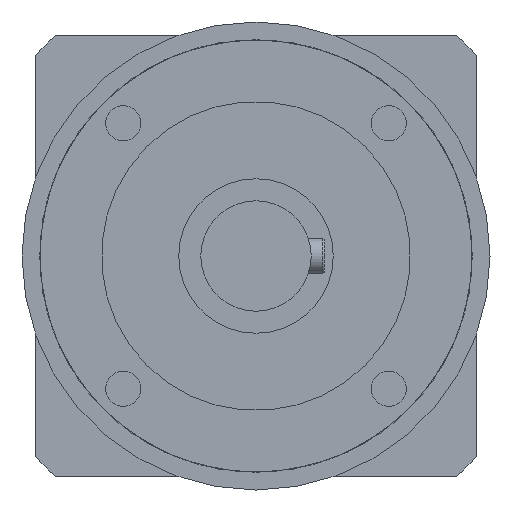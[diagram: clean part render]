
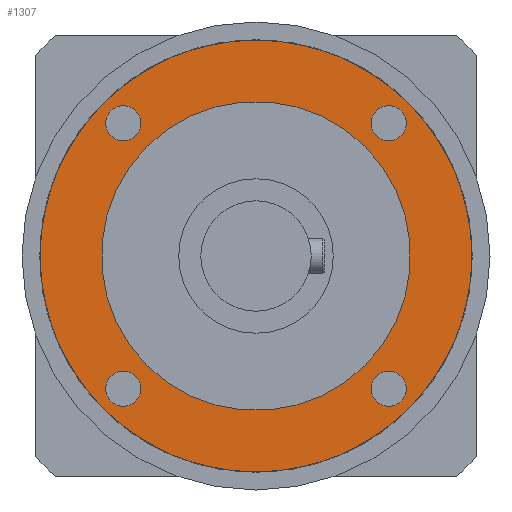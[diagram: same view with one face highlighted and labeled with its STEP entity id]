
A CAD part, left-side view. The second image highlights one B-rep face of the part: STEP entity #1307.
In plain terms, the highlighted planar face has unit normal (-1, 0, 0) as drawn and (0, 0, 1) by its records, which use the part's own axes.
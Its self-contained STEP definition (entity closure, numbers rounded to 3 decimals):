
#1307=ADVANCED_FACE('',(#1470,#1471,#1472,#1473,#1474,#1475),#1404,.T.);
#1404=PLANE('',#2532);
#1470=FACE_BOUND('',#1604,.T.);
#1471=FACE_BOUND('',#1605,.T.);
#1472=FACE_BOUND('',#1606,.T.);
#1473=FACE_BOUND('',#1607,.T.);
#1474=FACE_BOUND('',#1608,.T.);
#1475=FACE_BOUND('',#1609,.T.);
#1604=EDGE_LOOP('',(#1777));
#1605=EDGE_LOOP('',(#1778));
#1606=EDGE_LOOP('',(#1779));
#1607=EDGE_LOOP('',(#1780));
#1608=EDGE_LOOP('',(#1781));
#1609=EDGE_LOOP('',(#1782));
#1777=ORIENTED_EDGE('',*,*,#2243,.T.);
#1778=ORIENTED_EDGE('',*,*,#2244,.T.);
#1779=ORIENTED_EDGE('',*,*,#2245,.T.);
#1780=ORIENTED_EDGE('',*,*,#2246,.T.);
#1781=ORIENTED_EDGE('',*,*,#2247,.F.);
#1782=ORIENTED_EDGE('',*,*,#2242,.T.);
#2105=VERTEX_POINT('',#3229);
#2106=VERTEX_POINT('',#3232);
#2107=VERTEX_POINT('',#3234);
#2108=VERTEX_POINT('',#3236);
#2109=VERTEX_POINT('',#3238);
#2110=VERTEX_POINT('',#3240);
#2242=EDGE_CURVE('',#2105,#2105,#2414,.T.);
#2243=EDGE_CURVE('',#2106,#2106,#2415,.T.);
#2244=EDGE_CURVE('',#2107,#2107,#2416,.T.);
#2245=EDGE_CURVE('',#2108,#2108,#2417,.T.);
#2246=EDGE_CURVE('',#2109,#2109,#2418,.T.);
#2247=EDGE_CURVE('',#2110,#2110,#2419,.T.);
#2414=CIRCLE('',#2525,49.);
#2415=CIRCLE('',#2527,4.);
#2416=CIRCLE('',#2528,4.);
#2417=CIRCLE('',#2529,4.);
#2418=CIRCLE('',#2530,4.);
#2419=CIRCLE('',#2531,35.);
#2525=AXIS2_PLACEMENT_3D('',#3228,#2769,#2770);
#2527=AXIS2_PLACEMENT_3D('',#3231,#2773,#2774);
#2528=AXIS2_PLACEMENT_3D('',#3233,#2775,#2776);
#2529=AXIS2_PLACEMENT_3D('',#3235,#2777,#2778);
#2530=AXIS2_PLACEMENT_3D('',#3237,#2779,#2780);
#2531=AXIS2_PLACEMENT_3D('',#3239,#2781,#2782);
#2532=AXIS2_PLACEMENT_3D('',#3241,#2783,#2784);
#2769=DIRECTION('',(0.,0.,1.));
#2770=DIRECTION('',(1.,0.,0.));
#2773=DIRECTION('',(0.,0.,-1.));
#2774=DIRECTION('',(0.,1.,0.));
#2775=DIRECTION('',(0.,0.,-1.));
#2776=DIRECTION('',(1.,0.,0.));
#2777=DIRECTION('',(0.,0.,-1.));
#2778=DIRECTION('',(0.,-1.,0.));
#2779=DIRECTION('',(0.,0.,-1.));
#2780=DIRECTION('',(-1.,0.,0.));
#2781=DIRECTION('',(0.,0.,1.));
#2782=DIRECTION('',(1.,0.,0.));
#2783=DIRECTION('',(0.,0.,1.));
#2784=DIRECTION('',(1.,0.,0.));
#3228=CARTESIAN_POINT('',(0.,0.,44.));
#3229=CARTESIAN_POINT('',(49.,0.,44.));
#3231=CARTESIAN_POINT('',(-42.5,0.,44.));
#3232=CARTESIAN_POINT('',(-42.5,4.,44.));
#3233=CARTESIAN_POINT('',(0.,42.5,44.));
#3234=CARTESIAN_POINT('',(4.,42.5,44.));
#3235=CARTESIAN_POINT('',(42.5,0.,44.));
#3236=CARTESIAN_POINT('',(42.5,-4.,44.));
#3237=CARTESIAN_POINT('',(0.,-42.5,44.));
#3238=CARTESIAN_POINT('',(-4.,-42.5,44.));
#3239=CARTESIAN_POINT('',(0.,0.,44.));
#3240=CARTESIAN_POINT('',(35.,0.,44.));
#3241=CARTESIAN_POINT('',(0.,0.,44.));
